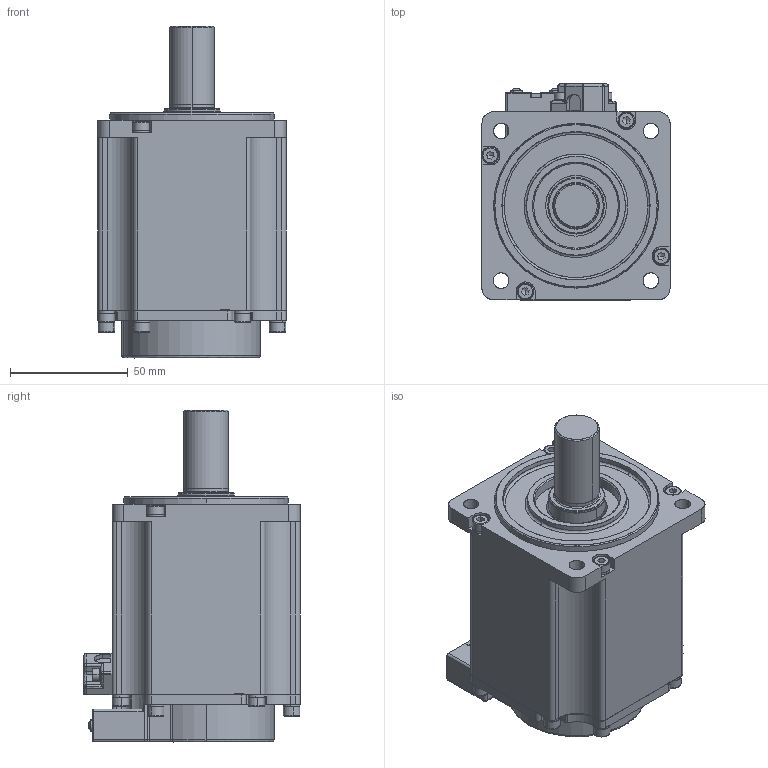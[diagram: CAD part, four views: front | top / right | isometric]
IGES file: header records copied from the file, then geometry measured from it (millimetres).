
Start section: SolidWorks IGES file using analytic representation for surfaces
Bounding box: 80.03 x 92.02 x 141.2 mm (x, y, z)
Surface area: 96497.4 mm2 (no closed solid volume)
Topology: 0 solids, 0 shells, 1026 faces, 13680 edges, 13600 vertices
Faces by surface type: revolution 544, bspline 482
